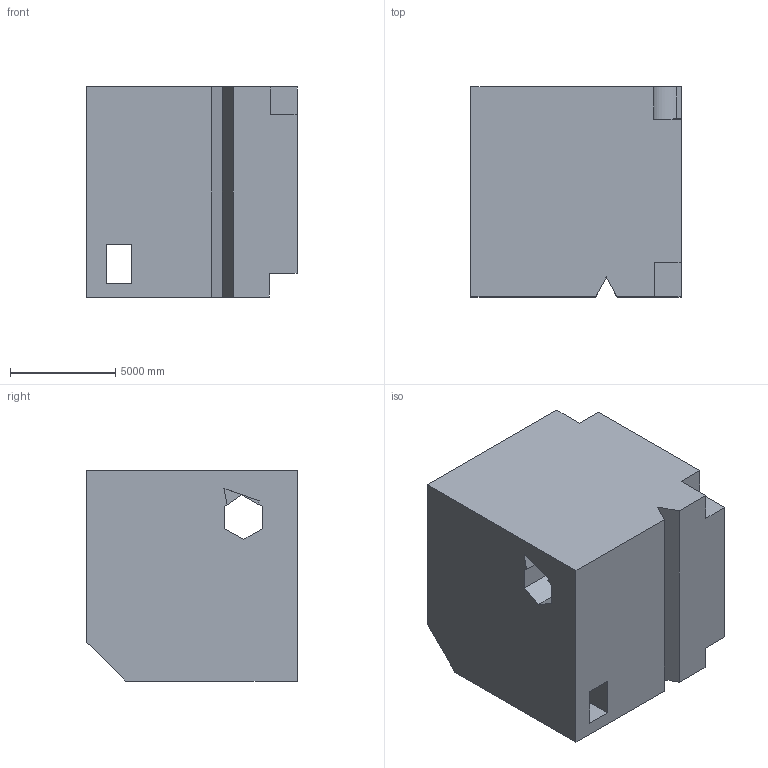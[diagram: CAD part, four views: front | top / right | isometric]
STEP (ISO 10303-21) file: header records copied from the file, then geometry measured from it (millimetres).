
FILE_DESCRIPTION (( 'STEP AP203' ), '1' );
FILE_NAME ('1994.STEP', '2022-08-23T10:23:22', ( 'user' ), ( '' ), 'SwSTEP 2.0', 'SolidWorks 2021', '' );
FILE_SCHEMA (( 'CONFIG_CONTROL_DESIGN' ));
Length unit declared in the file: centimetre
Products named in the file (1): 1994
Bounding box: 10000 x 10000 x 10000 mm (x, y, z)
Volume: 869508561548 mm3; surface area: 742563560.8 mm2
Topology: 1 solids, 1 shells, 40 faces, 115 edges, 76 vertices
Faces by surface type: plane 36, cylinder 4
Entity records: 1377 total; most frequent: CARTESIAN_POINT 243, ORIENTED_EDGE 230, DIRECTION 200, EDGE_CURVE 115, LINE 106, VECTOR 106, VERTEX_POINT 76, AXIS2_PLACEMENT_3D 47
